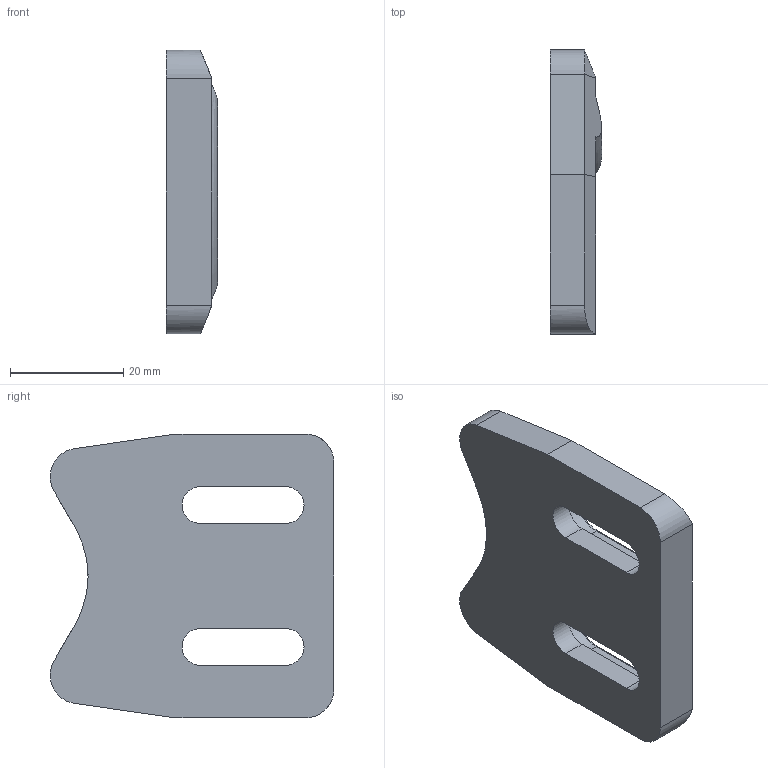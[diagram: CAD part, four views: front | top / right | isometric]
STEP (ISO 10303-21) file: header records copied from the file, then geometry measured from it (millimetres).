
FILE_DESCRIPTION (( 'STEP AP214' ), '1' );
FILE_NAME ('1.4029 Ovisalpa.STEP', '2025-09-15T07:24:48', ( '' ), ( '' ), 'SwSTEP 2.0', 'SolidWorks 2025', '' );
FILE_SCHEMA (( 'AUTOMOTIVE_DESIGN' ));
Length unit declared in the file: millimetre
Products named in the file (1): 1.4029 Ovisalpa
Bounding box: 9 x 50 x 50 mm (x, y, z)
Volume: 14553 mm3; surface area: 6222.2 mm2
Topology: 1 solids, 1 shells, 52 faces, 132 edges, 82 vertices
Faces by surface type: plane 27, cylinder 17, torus 5, cone 3
Entity records: 2525 total; most frequent: CARTESIAN_POINT 1251, DIRECTION 261, ORIENTED_EDGE 260, EDGE_CURVE 130, AXIS2_PLACEMENT_3D 91, VERTEX_POINT 82, LINE 79, VECTOR 79
